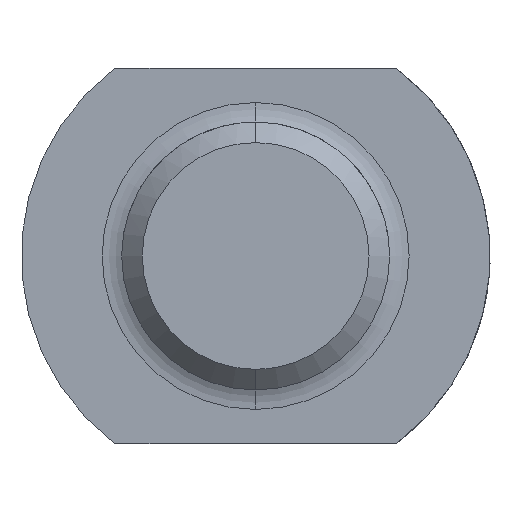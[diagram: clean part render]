
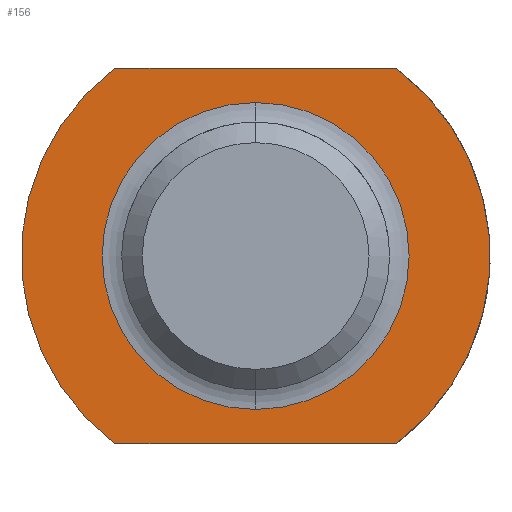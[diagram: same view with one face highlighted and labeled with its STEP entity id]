
A CAD part, left-side view. The second image highlights one B-rep face of the part: STEP entity #156.
In plain terms, the highlighted planar face has unit normal (-1, 0, 0).
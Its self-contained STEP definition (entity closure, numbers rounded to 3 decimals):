
#57=CARTESIAN_POINT('Line Origine',(0.,0.,-14.)) ;
#61=CARTESIAN_POINT('Vertex',(0.,-10.5,-14.)) ;
#63=CARTESIAN_POINT('Vertex',(0.,10.5,-14.)) ;
#92=CARTESIAN_POINT('Axis2P3D Location',(0.,11.458,0.)) ;
#97=CARTESIAN_POINT('Axis2P3D Location',(0.,0.,0.)) ;
#101=CARTESIAN_POINT('Vertex',(0.,10.5,14.)) ;
#104=CARTESIAN_POINT('Axis2P3D Location',(0.,0.,0.)) ;
#108=CARTESIAN_POINT('Vertex',(0.,-10.5,14.)) ;
#111=CARTESIAN_POINT('Line Origine',(0.,0.,14.)) ;
#122=CARTESIAN_POINT('Axis2P3D Location',(0.,0.,0.)) ;
#126=CARTESIAN_POINT('Vertex',(0.,11.458,0.)) ;
#128=CARTESIAN_POINT('Vertex',(0.,0.,11.458)) ;
#131=CARTESIAN_POINT('Axis2P3D Location',(0.,0.,0.)) ;
#135=CARTESIAN_POINT('Vertex',(0.,-11.458,0.)) ;
#138=CARTESIAN_POINT('Axis2P3D Location',(0.,0.,0.)) ;
#142=CARTESIAN_POINT('Vertex',(0.,0.,-11.458)) ;
#145=CARTESIAN_POINT('Axis2P3D Location',(0.,0.,0.)) ;
#58=DIRECTION('Vector Direction',(0.,1.,0.)) ;
#93=DIRECTION('Axis2P3D Direction',(1.,0.,-0.)) ;
#94=DIRECTION('Axis2P3D XDirection',(-0.,0.,-1.)) ;
#98=DIRECTION('Axis2P3D Direction',(1.,0.,-0.)) ;
#105=DIRECTION('Axis2P3D Direction',(1.,0.,-0.)) ;
#112=DIRECTION('Vector Direction',(0.,-1.,0.)) ;
#123=DIRECTION('Axis2P3D Direction',(1.,0.,-0.)) ;
#132=DIRECTION('Axis2P3D Direction',(1.,0.,-0.)) ;
#139=DIRECTION('Axis2P3D Direction',(1.,0.,-0.)) ;
#146=DIRECTION('Axis2P3D Direction',(1.,0.,-0.)) ;
#95=AXIS2_PLACEMENT_3D('Plane Axis2P3D',#92,#93,#94) ;
#99=AXIS2_PLACEMENT_3D('Circle Axis2P3D',#97,#98,$) ;
#106=AXIS2_PLACEMENT_3D('Circle Axis2P3D',#104,#105,$) ;
#124=AXIS2_PLACEMENT_3D('Circle Axis2P3D',#122,#123,$) ;
#133=AXIS2_PLACEMENT_3D('Circle Axis2P3D',#131,#132,$) ;
#140=AXIS2_PLACEMENT_3D('Circle Axis2P3D',#138,#139,$) ;
#147=AXIS2_PLACEMENT_3D('Circle Axis2P3D',#145,#146,$) ;
#117=ORIENTED_EDGE('',*,*,#103,.F.) ;
#118=ORIENTED_EDGE('',*,*,#65,.F.) ;
#119=ORIENTED_EDGE('',*,*,#110,.F.) ;
#120=ORIENTED_EDGE('',*,*,#115,.F.) ;
#151=ORIENTED_EDGE('',*,*,#130,.T.) ;
#152=ORIENTED_EDGE('',*,*,#137,.T.) ;
#153=ORIENTED_EDGE('',*,*,#144,.T.) ;
#154=ORIENTED_EDGE('',*,*,#149,.T.) ;
#155=FACE_BOUND('',#150,.T.) ;
#59=VECTOR('Line Direction',#58,1.) ;
#113=VECTOR('Line Direction',#112,1.) ;
#156=ADVANCED_FACE('AGS3411M20',(#121,#155),#96,.F.) ;
#100=CIRCLE('generated circle',#99,17.5) ;
#107=CIRCLE('generated circle',#106,17.5) ;
#125=CIRCLE('generated circle',#124,11.458) ;
#134=CIRCLE('generated circle',#133,11.458) ;
#141=CIRCLE('generated circle',#140,11.458) ;
#148=CIRCLE('generated circle',#147,11.458) ;
#65=EDGE_CURVE('',#62,#64,#60,.T.) ;
#103=EDGE_CURVE('',#64,#102,#100,.T.) ;
#110=EDGE_CURVE('',#109,#62,#107,.T.) ;
#115=EDGE_CURVE('',#102,#109,#114,.T.) ;
#130=EDGE_CURVE('',#127,#129,#125,.T.) ;
#137=EDGE_CURVE('',#129,#136,#134,.T.) ;
#144=EDGE_CURVE('',#136,#143,#141,.T.) ;
#149=EDGE_CURVE('',#143,#127,#148,.T.) ;
#116=EDGE_LOOP('',(#117,#118,#119,#120)) ;
#150=EDGE_LOOP('',(#151,#152,#153,#154)) ;
#121=FACE_OUTER_BOUND('',#116,.T.) ;
#60=LINE('Line',#57,#59) ;
#114=LINE('Line',#111,#113) ;
#96=PLANE('Plane',#95) ;
#62=VERTEX_POINT('',#61) ;
#64=VERTEX_POINT('',#63) ;
#102=VERTEX_POINT('',#101) ;
#109=VERTEX_POINT('',#108) ;
#127=VERTEX_POINT('',#126) ;
#129=VERTEX_POINT('',#128) ;
#136=VERTEX_POINT('',#135) ;
#143=VERTEX_POINT('',#142) ;
